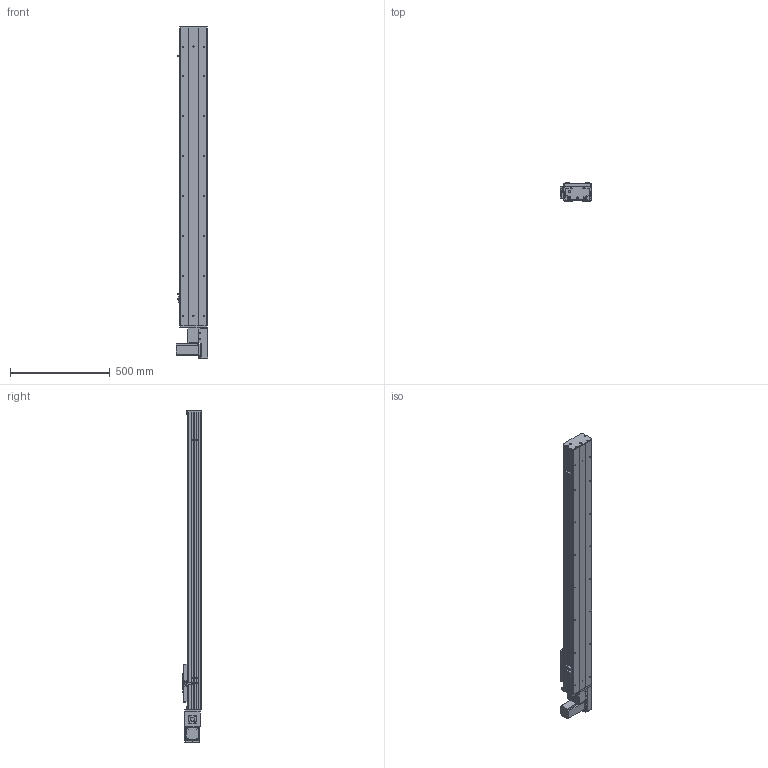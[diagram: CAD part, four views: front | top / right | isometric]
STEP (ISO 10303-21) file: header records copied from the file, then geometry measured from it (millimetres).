
FILE_DESCRIPTION (( 'STEP AP203' ), '1' );
FILE_NAME ('Y135CB-D90-S1200-BL-P400W.STEP', '2020-02-17T09:09:35', ( '微软用户' ), ( '微软中国' ), 'SwSTEP 2.0', 'SolidWorks 2017', '' );
FILE_SCHEMA (( 'CONFIG_CONTROL_DESIGN' ));
Length unit declared in the file: millimetre
Products named in the file (18): Y俋欶BR----; 5C--俋欶; 0B-源倛裔啣; 0B-埴倛裔啣; C-雄赽釱--; 0B-萇儂楊擘啣; Y135CB-D90-S1200-BL-P400W; san松下电机400不带刹车----; Y135CB-耜裔; 5CB --掛极耜裔啣-; 135CB---遴掛极.-; C-詩湍揤踡え-陔; 35CB---喘謫眊楊擘啣; 135CB--詩湍-CE; Y10B--々湍喘謫眊--666; Y100-135俋离換覜ん--; Y10B-耜蚾蟀諉啣----; Y135C-陔俋离換覜結え-
Assembly tree (21 placements, depth 2):
  Y135CB-D90-S1200-BL-P400W
    Y135CB-耜裔
    135CB---遴掛极.-
    35CB---喘謫眊楊擘啣
    Y10B--々湍喘謫眊--666
    Y10B-耜蚾蟀諉啣----
    Y俋欶BR----
    0B-埴倛裔啣
    0B-源倛裔啣
    0B-萇儂楊擘啣
    san松下电机400不带刹车----
    5CB --掛极耜裔啣-  x2
    C-詩湍揤踡え-陔  x2
    135CB--詩湍-CE
    Y100-135俋离換覜ん--  x3
    Y135C-陔俋离換覜結え-
    5C--俋欶
    C-雄赽釱--
Bounding box: 157.5 x 91 x 1664.5 mm (x, y, z)
Volume: 4906684.6 mm3; surface area: 1925829.9 mm2
Topology: 21 solids, 21 shells, 949 faces, 2545 edges, 1686 vertices
Faces by surface type: cylinder 475, plane 458, cone 16
Entity records: 29543 total; most frequent: DIRECTION 4905, CARTESIAN_POINT 4856, ORIENTED_EDGE 4566, EDGE_CURVE 2283, AXIS2_PLACEMENT_3D 1787, VERTEX_POINT 1514, LINE 1331, VECTOR 1331
